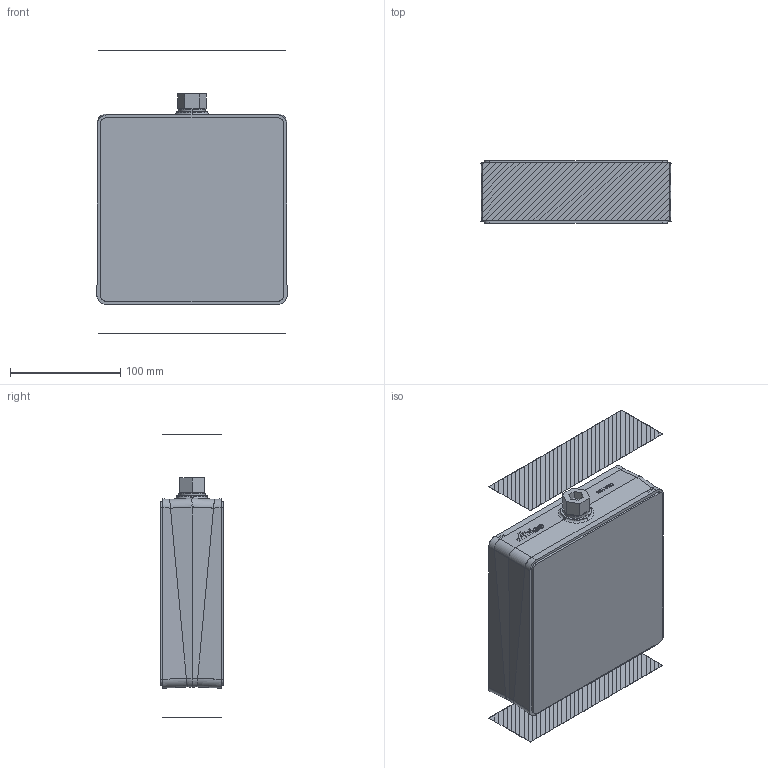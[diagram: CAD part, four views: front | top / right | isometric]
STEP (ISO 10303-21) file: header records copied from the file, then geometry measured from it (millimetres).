
FILE_DESCRIPTION (( 'STEP AP214' ), '1' );
FILE_NAME ('304-VRC-2-2.step', '2014-01-16T13:16:08', ( 'admin' ), ( '' ), 'SwSTEP 2.0', 'SolidWorks 2012', '' );
FILE_SCHEMA (( 'AUTOMOTIVE_DESIGN' ));
Length unit declared in the file: millimetre
Products named in the file (3): SS 002810_204-VRC; SS 000378_304-VRC-2-2; 304-VRC-2-2
Assembly tree (2 placements, depth 2):
  304-VRC-2-2
    SS 000378_304-VRC-2-2
    SS 002810_204-VRC
Bounding box: 172.24 x 56.76 x 257 mm (x, y, z)
Volume: 1657224.9 mm3; surface area: 135785 mm2
Topology: 3 solids, 4 shells, 457 faces, 1230 edges, 803 vertices
Faces by surface type: plane 354, bspline 53, cylinder 40, cone 8, torus 2
Entity records: 21433 total; most frequent: CARTESIAN_POINT 5848, ORIENTED_EDGE 2456, DIRECTION 1932, EDGE_CURVE 1228, LINE 1002, VECTOR 1002, VERTEX_POINT 803, EDGE_LOOP 483
